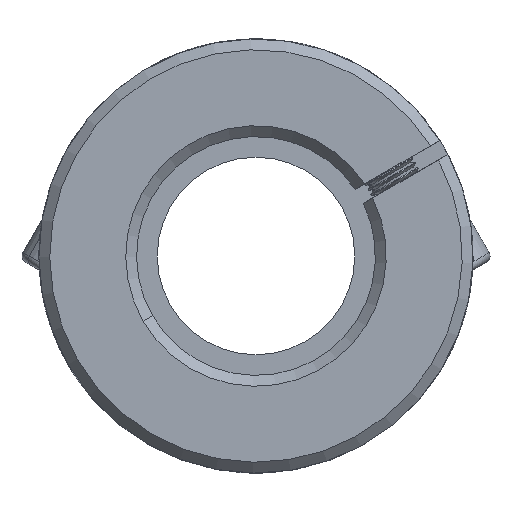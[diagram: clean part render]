
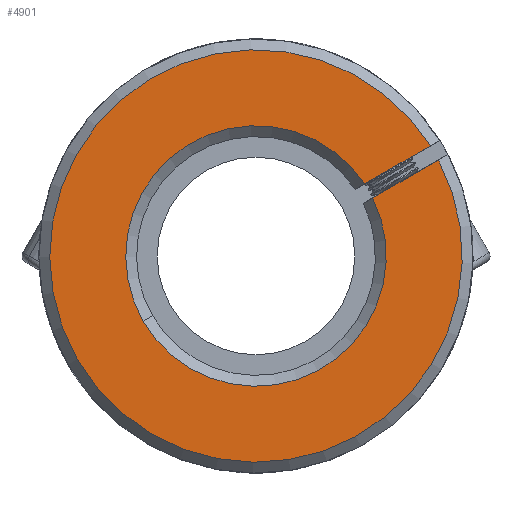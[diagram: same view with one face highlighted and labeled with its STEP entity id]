
A CAD part, front view. The second image highlights one B-rep face of the part: STEP entity #4901.
In plain terms, the highlighted planar face has unit normal (0, -1, 0).
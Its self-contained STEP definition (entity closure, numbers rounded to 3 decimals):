
#8 = ORIENTED_EDGE ( 'NONE', *, *, #2214, .T. ) ;
#369 = DIRECTION ( 'NONE',  ( -0.866, 0., -0.5 ) ) ;
#703 = CIRCLE ( 'NONE', #7270, 12. ) ;
#1458 = VECTOR ( 'NONE', #9844, 1000. ) ;
#1617 = PLANE ( 'NONE',  #7129 ) ;
#2080 = DIRECTION ( 'NONE',  ( 0.5, 0., -0.866 ) ) ;
#2128 = CARTESIAN_POINT ( 'NONE',  ( 14.616, -31.239, 50.147 ) ) ;
#2214 = EDGE_CURVE ( 'NONE', #7085, #8668, #9675, .T. ) ;
#2564 = CARTESIAN_POINT ( 'NONE',  ( 7.68, -31.239, 46.14 ) ) ;
#2764 = EDGE_CURVE ( 'NONE', #7209, #8668, #13365, .T. ) ;
#2846 = DIRECTION ( 'NONE',  ( 0., 1., 0. ) ) ;
#3109 = CARTESIAN_POINT ( 'NONE',  ( -1.447, -31.239, 40. ) ) ;
#3122 = CARTESIAN_POINT ( 'NONE',  ( -11.837, -31.239, 33.997 ) ) ;
#3419 = ORIENTED_EDGE ( 'NONE', *, *, #8507, .T. ) ;
#3626 = ORIENTED_EDGE ( 'NONE', *, *, #7790, .F. ) ;
#3630 = CARTESIAN_POINT ( 'NONE',  ( 8.431, -31.239, 44.841 ) ) ;
#4332 = CARTESIAN_POINT ( 'NONE',  ( 9.298, -31.239, 45.342 ) ) ;
#4548 = VERTEX_POINT ( 'NONE', #3122 ) ;
#4901 = ADVANCED_FACE ( 'NONE', ( #6981 ), #1617, .F. ) ;
#6479 = ORIENTED_EDGE ( 'NONE', *, *, #2764, .F. ) ;
#6496 = CARTESIAN_POINT ( 'NONE',  ( 15.367, -31.239, 48.848 ) ) ;
#6981 = FACE_OUTER_BOUND ( 'NONE', #8413, .T. ) ;
#7085 = VERTEX_POINT ( 'NONE', #2128 ) ;
#7129 = AXIS2_PLACEMENT_3D ( 'NONE', #8168, #2846, #10170 ) ;
#7148 = EDGE_CURVE ( 'NONE', #4548, #13010, #7428, .T. ) ;
#7209 = VERTEX_POINT ( 'NONE', #4332 ) ;
#7270 = AXIS2_PLACEMENT_3D ( 'NONE', #7410, #10550, #2080 ) ;
#7410 = CARTESIAN_POINT ( 'NONE',  ( -1.447, -31.239, 40. ) ) ;
#7428 = CIRCLE ( 'NONE', #13745, 12. ) ;
#7638 = DIRECTION ( 'NONE',  ( 0.5, 0., -0.866 ) ) ;
#7766 = ORIENTED_EDGE ( 'NONE', *, *, #7148, .T. ) ;
#7790 = EDGE_CURVE ( 'NONE', #7085, #13010, #10421, .T. ) ;
#8088 = AXIS2_PLACEMENT_3D ( 'NONE', #3109, #10556, #9607 ) ;
#8168 = CARTESIAN_POINT ( 'NONE',  ( 52.98, -31.239, 45.743 ) ) ;
#8413 = EDGE_LOOP ( 'NONE', ( #6479, #3419, #7766, #3626, #8 ) ) ;
#8507 = EDGE_CURVE ( 'NONE', #7209, #4548, #703, .T. ) ;
#8668 = VERTEX_POINT ( 'NONE', #6496 ) ;
#9607 = DIRECTION ( 'NONE',  ( 0.5, 0., -0.866 ) ) ;
#9675 = CIRCLE ( 'NONE', #8088, 19. ) ;
#9737 = CARTESIAN_POINT ( 'NONE',  ( -1.447, -31.239, 40. ) ) ;
#9844 = DIRECTION ( 'NONE',  ( 0.866, 0., 0.5 ) ) ;
#10170 = DIRECTION ( 'NONE',  ( 0.5, 0., -0.866 ) ) ;
#10421 = LINE ( 'NONE', #2564, #11603 ) ;
#10550 = DIRECTION ( 'NONE',  ( 0., 1., 0. ) ) ;
#10556 = DIRECTION ( 'NONE',  ( 0., -1., 0. ) ) ;
#11557 = CARTESIAN_POINT ( 'NONE',  ( 8.548, -31.239, 46.641 ) ) ;
#11603 = VECTOR ( 'NONE', #369, 1000. ) ;
#11952 = DIRECTION ( 'NONE',  ( 0., 1., 0. ) ) ;
#13010 = VERTEX_POINT ( 'NONE', #11557 ) ;
#13365 = LINE ( 'NONE', #3630, #1458 ) ;
#13745 = AXIS2_PLACEMENT_3D ( 'NONE', #9737, #11952, #7638 ) ;
